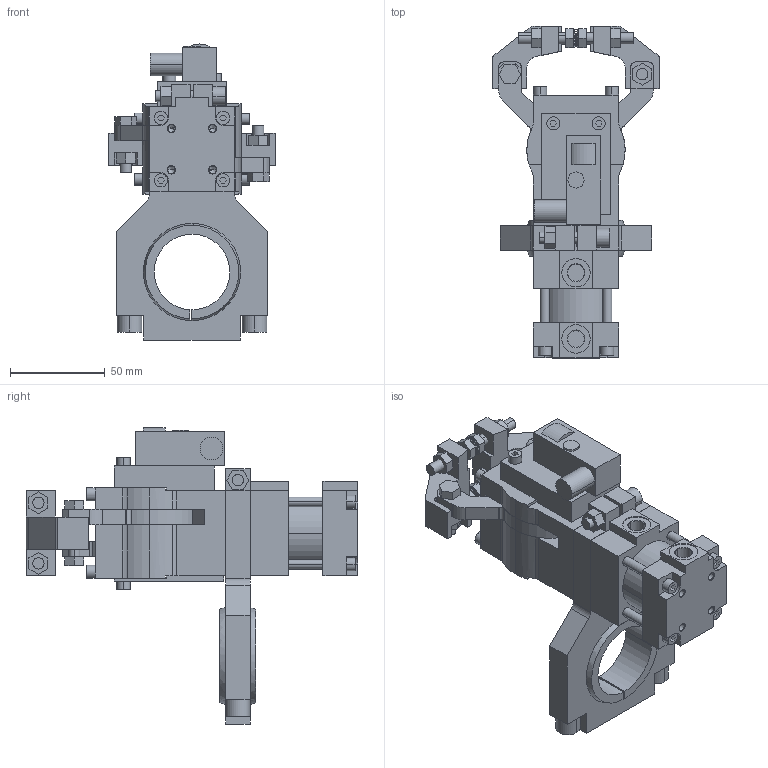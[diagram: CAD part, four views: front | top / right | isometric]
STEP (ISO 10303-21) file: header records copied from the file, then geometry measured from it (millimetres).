
FILE_DESCRIPTION (( 'STEP AP214' ), '1' );
FILE_NAME ('b32_b2sx_pla___a_b40.STEP', '2018-05-08T12:54:48', ( 'vepadmin' ), ( 'Hewlett-Packard Company' ), 'SwSTEP 2.0', 'SolidWorks 2018', '' );
FILE_SCHEMA (( 'AUTOMOTIVE_DESIGN' ));
Length unit declared in the file: millimetre
Products named in the file (11): piedino_zigrinato_M6x25; gruppo_cilindro_b32; riparo_micro_b32; blocchetto_p&f_90; scatola_micro_b32; attacco_b40_b32; leva_b32b; gruppo_montante_b32b; b32_b2sx_pla___a_b40; tassello_b2_b32; calotta_sferica_40_b32
Assembly tree (15 placements, depth 2):
  b32_b2sx_pla___a_b40
    gruppo_montante_b32b
    leva_b32b  x2
    attacco_b40_b32
    scatola_micro_b32
    blocchetto_p&f_90
    riparo_micro_b32
    gruppo_cilindro_b32
    piedino_zigrinato_M6x25  x4
    calotta_sferica_40_b32
    tassello_b2_b32  x2
Bounding box: 88 x 175.5 x 156.6 mm (x, y, z)
Volume: 411331 mm3; surface area: 120140.5 mm2
Topology: 15 solids, 15 shells, 1122 faces, 2681 edges, 1741 vertices
Faces by surface type: plane 833, cylinder 263, cone 22, sphere 4
Entity records: 20019 total; most frequent: CARTESIAN_POINT 3519, DIRECTION 3320, ORIENTED_EDGE 3266, EDGE_CURVE 1633, VECTOR 1220, LINE 1220, VERTEX_POINT 1069, AXIS2_PLACEMENT_3D 1050
